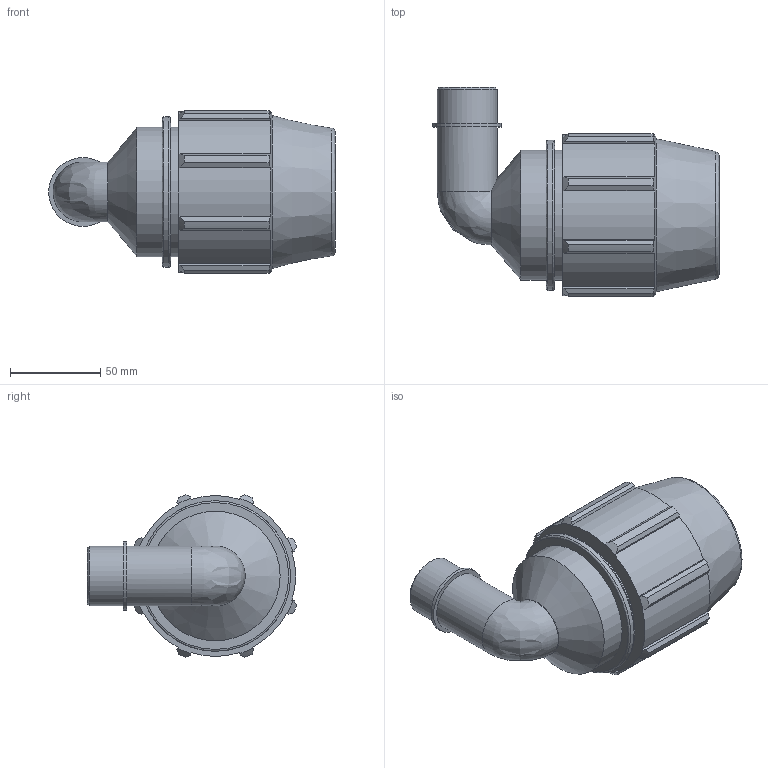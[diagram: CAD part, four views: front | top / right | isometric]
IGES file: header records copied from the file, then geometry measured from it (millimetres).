
Global section: file name: 078500050010_188500050010_0785060500100A.ipt; native system: Autodesk Inventor 2015; preprocessor: unknown; author: KIM; date: 20170606.133125; units: millimetre
Bounding box: 159.12 x 116.16 x 90.33 mm (x, y, z)
Volume: 473451.2 mm3; surface area: 75923.6 mm2
Topology: 1 solids, 1 shells, 86 faces, 237 edges, 158 vertices
Faces by surface type: plane 41, cylinder 23, cone 12, revolution 9, bspline 1
Full cylindrical faces by diameter (mm): 33.249 x2, 38.236 x1, 72 x2, 83.52 x1
